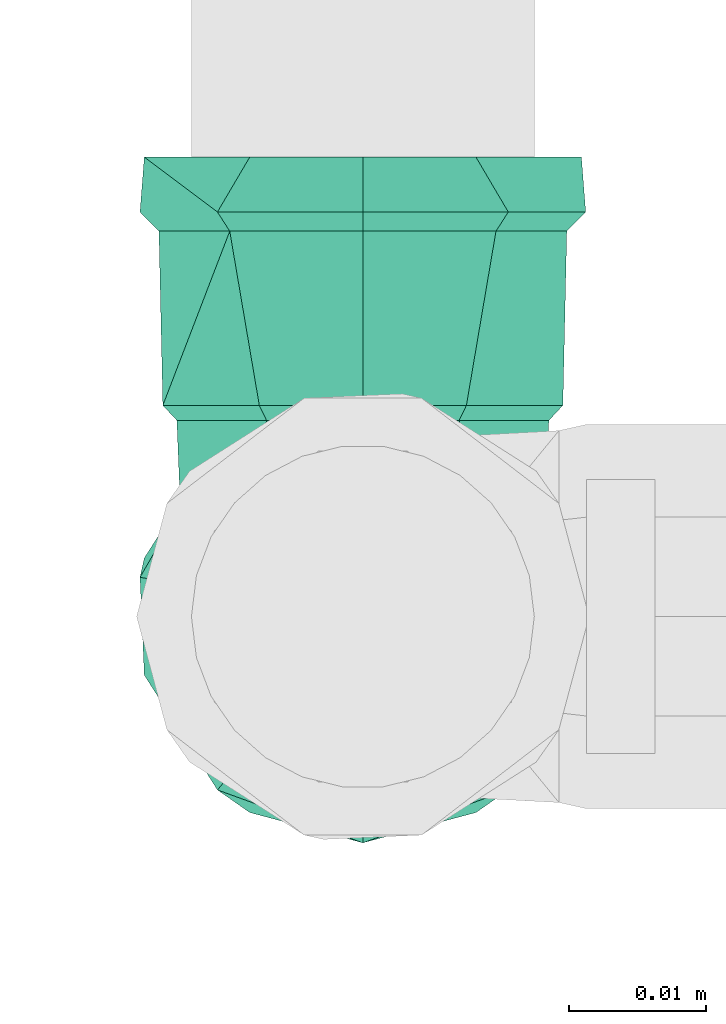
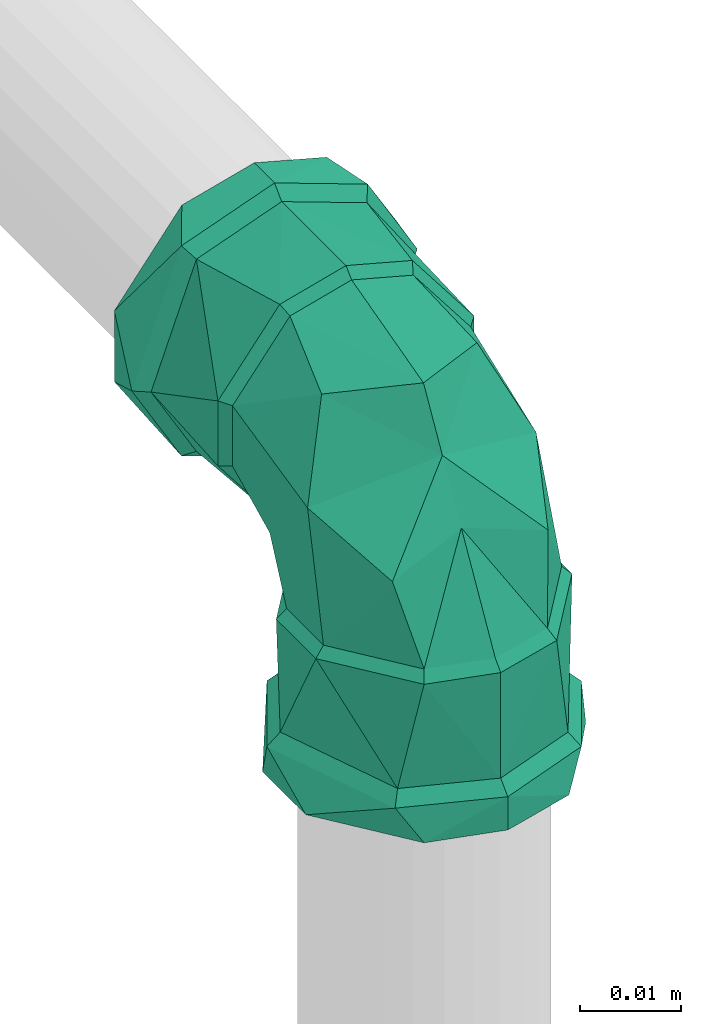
# One storey, part 353 of 589: 1 flow fitting.
"""IFC2X3 building model written with IfcOpenShell, lengths in millimetres."""

from ifc_helpers import new_model, entity, si_unit, converted_unit, derived_unit, direction, frame, origin, place, context, subcontext, project, spatial, faceted_brep, source, transform, mapped, material, type_object, type_shapes, element, save


model = new_model("IFC2X3")

# Units and contexts
model_context = context("Model", 3, precision=0.01, world=origin(), true_north=direction((6.123031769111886e-17, 1.0)))
body_context = subcontext(model_context, "Body", "Model", "MODEL_VIEW")
ifc_project = project(units=[si_unit("LENGTHUNIT", "METRE", prefix="MILLI"), si_unit("AREAUNIT", "SQUARE_METRE"), si_unit("VOLUMEUNIT", "CUBIC_METRE"), converted_unit("PLANEANGLEUNIT", "DEGREE", entity("IfcRatioMeasure", 0.017453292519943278), si_unit("PLANEANGLEUNIT", "RADIAN"), dimensions=[0, 0, 0, 0, 0, 0, 0]), si_unit("MASSUNIT", "GRAM", prefix="KILO"), derived_unit("MASSDENSITYUNIT", [(si_unit("MASSUNIT", "GRAM", prefix="KILO"), 1), (si_unit("LENGTHUNIT", "METRE"), -3)]), derived_unit("IONCONCENTRATIONUNIT", [(si_unit("MASSUNIT", "GRAM", prefix="KILO"), 1), (si_unit("LENGTHUNIT", "METRE"), -3)]), derived_unit("MOMENTOFINERTIAUNIT", [(si_unit("LENGTHUNIT", "METRE"), 4)]), si_unit("TIMEUNIT", "SECOND"), si_unit("FREQUENCYUNIT", "HERTZ"), si_unit("THERMODYNAMICTEMPERATUREUNIT", "DEGREE_CELSIUS"), derived_unit("THERMALTRANSMITTANCEUNIT", [(si_unit("MASSUNIT", "GRAM", prefix="KILO"), 1), (si_unit("THERMODYNAMICTEMPERATUREUNIT", "KELVIN"), -1), (si_unit("TIMEUNIT", "SECOND"), -3)]), derived_unit("THERMALCONDUCTANCEUNIT", [(si_unit("MASSUNIT", "GRAM", prefix="KILO"), 1), (si_unit("THERMODYNAMICTEMPERATUREUNIT", "KELVIN"), -1), (si_unit("TIMEUNIT", "SECOND"), -3), (si_unit("LENGTHUNIT", "METRE"), 1)]), derived_unit("VOLUMETRICFLOWRATEUNIT", [(si_unit("LENGTHUNIT", "METRE"), 3), (si_unit("TIMEUNIT", "SECOND"), -1)]), derived_unit("MASSFLOWRATEUNIT", [(si_unit("MASSUNIT", "GRAM", prefix="KILO"), 1), (si_unit("TIMEUNIT", "SECOND"), -1)]), derived_unit("ROTATIONALFREQUENCYUNIT", [(si_unit("TIMEUNIT", "SECOND"), -1)]), si_unit("ELECTRICCURRENTUNIT", "AMPERE"), si_unit("ELECTRICVOLTAGEUNIT", "VOLT"), si_unit("POWERUNIT", "WATT"), si_unit("FORCEUNIT", "NEWTON", prefix="KILO"), si_unit("ILLUMINANCEUNIT", "LUX"), si_unit("LUMINOUSFLUXUNIT", "LUMEN"), si_unit("LUMINOUSINTENSITYUNIT", "CANDELA"), derived_unit("USERDEFINED", [(si_unit("MASSUNIT", "GRAM", prefix="KILO"), -1), (si_unit("LENGTHUNIT", "METRE"), -2), (si_unit("TIMEUNIT", "SECOND"), 3), (si_unit("LUMINOUSFLUXUNIT", "LUMEN"), 1)]), derived_unit("USERDEFINED", [(si_unit("MASSUNIT", "GRAM", prefix="KILO"), 1), (si_unit("TIMEUNIT", "SECOND"), -3), (si_unit("LENGTHUNIT", "METRE"), 3), (si_unit("ELECTRICCURRENTUNIT", "AMPERE"), -2)]), derived_unit("SOUNDPOWERUNIT", [(si_unit("MASSUNIT", "GRAM", prefix="KILO"), 1), (si_unit("TIMEUNIT", "SECOND"), -3), (si_unit("LENGTHUNIT", "METRE"), 2)]), derived_unit("SOUNDPRESSUREUNIT", [(si_unit("MASSUNIT", "GRAM", prefix="KILO"), 1), (si_unit("LENGTHUNIT", "METRE"), -1), (si_unit("TIMEUNIT", "SECOND"), -2)]), derived_unit("LINEARVELOCITYUNIT", [(si_unit("LENGTHUNIT", "METRE"), 1), (si_unit("TIMEUNIT", "SECOND"), -1)]), si_unit("PRESSUREUNIT", "PASCAL"), derived_unit("USERDEFINED", [(si_unit("MASSUNIT", "GRAM", prefix="KILO"), 1), (si_unit("LENGTHUNIT", "METRE"), -2), (si_unit("TIMEUNIT", "SECOND"), -2)]), derived_unit("LINEARFORCEUNIT", [(si_unit("MASSUNIT", "GRAM", prefix="KILO"), 1), (si_unit("TIMEUNIT", "SECOND"), -2)]), derived_unit("PLANARFORCEUNIT", [(si_unit("MASSUNIT", "GRAM", prefix="KILO"), 1), (si_unit("LENGTHUNIT", "METRE"), -1), (si_unit("TIMEUNIT", "SECOND"), -2)]), derived_unit("SPECIFICHEATCAPACITYUNIT", [(si_unit("THERMODYNAMICTEMPERATUREUNIT", "KELVIN"), -1), (si_unit("LENGTHUNIT", "METRE"), 2), (si_unit("TIMEUNIT", "SECOND"), -2)]), derived_unit("HEATINGVALUEUNIT", [(si_unit("LENGTHUNIT", "METRE"), 2), (si_unit("TIMEUNIT", "SECOND"), -2)]), derived_unit("VAPORPERMEABILITYUNIT", [(si_unit("LENGTHUNIT", "METRE"), -1), (si_unit("TIMEUNIT", "SECOND"), 1)]), derived_unit("DYNAMICVISCOSITYUNIT", [(si_unit("MASSUNIT", "GRAM", prefix="KILO"), 1), (si_unit("TIMEUNIT", "SECOND"), -1), (si_unit("LENGTHUNIT", "METRE"), -1)]), derived_unit("THERMALEXPANSIONCOEFFICIENTUNIT", [(si_unit("THERMODYNAMICTEMPERATUREUNIT", "KELVIN"), -1)]), derived_unit("MODULUSOFELASTICITYUNIT", [(si_unit("MASSUNIT", "GRAM", prefix="KILO"), 1), (si_unit("LENGTHUNIT", "METRE"), -1), (si_unit("TIMEUNIT", "SECOND"), -2)]), derived_unit("ISOTHERMALMOISTURECAPACITYUNIT", [(si_unit("LENGTHUNIT", "METRE"), 3), (si_unit("MASSUNIT", "GRAM", prefix="KILO"), -1)]), derived_unit("MOISTUREDIFFUSIVITYUNIT", [(si_unit("TIMEUNIT", "SECOND"), -1), (si_unit("LENGTHUNIT", "METRE"), 2)])], contexts=[model_context])

# Site, building, storey
site_placement = place(None, origin())
site = spatial("IfcSite", under=ifc_project, at=site_placement, Name="Default", CompositionType="ELEMENT")
building_placement = place(site_placement, origin())
building = spatial("IfcBuilding", under=site, at=building_placement, CompositionType="ELEMENT")
storey_placement = place(building_placement, frame((0.0, 0.0, 100.0)))
storey = spatial("IfcBuildingStorey", under=building, at=storey_placement, Name="TÉRREO", CompositionType="ELEMENT", Elevation=100.0)

# Flow fitting
ifc_material = material(Name="PVC Marrom")
pipe_fitting_type = type_object("IfcPipeFittingType", Name="PVC Marrom Soldável_Joelho 45°_90°_Rodrigo MEP:Joelho", PredefinedType="NOTDEFINED", material=ifc_material)
shared_shape = source(origin(), body_context, "Body", "Brep", [
    faceted_brep([(3.908167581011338, 15.40000000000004, 14.585479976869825), (13.076983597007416, 15.40000000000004, 7.549999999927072), (15.099999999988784, 15.40000000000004, 0.0), (13.076983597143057, 15.40000000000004, -7.55000000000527), (3.9081675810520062, 15.40000000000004, -14.585479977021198), (-3.9081675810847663, 15.40000000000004, -14.585479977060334), (-13.076983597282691, 15.40000000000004, -7.550000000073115), (-15.100000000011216, 15.40000000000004, 0.0), (-13.076983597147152, 15.40000000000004, 7.549999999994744), (-3.908167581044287, 15.40000000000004, 14.585479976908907), (-3.633819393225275, 14.30000000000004, 13.561598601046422), (-12.158996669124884, 14.30000000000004, 7.0199999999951), (-14.040000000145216, 14.30000000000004, 0.0), (-12.158996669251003, 14.30000000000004, -7.020000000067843), (-3.6338193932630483, 14.30000000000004, -13.561598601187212), (3.6338193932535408, 14.30000000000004, -13.561598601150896), (12.158996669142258, 14.30000000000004, -7.020000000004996), (14.039999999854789, 14.30000000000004, 0.0), (12.158996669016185, 14.30000000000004, 7.0199999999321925), (3.6338193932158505, 14.30000000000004, 13.561598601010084)], [[[0, 1, 2, 3, 4, 5, 6, 7, 8, 9]], [[10, 11, 12, 13, 14, 15, 16, 17, 18, 19]], [[3, 17, 16]], [[4, 3, 16, 15]], [[3, 2, 17]], [[15, 14, 5, 4]], [[6, 5, 14, 13]], [[7, 13, 12]], [[7, 6, 13]], [[8, 12, 11]], [[9, 8, 11, 10]], [[8, 7, 12]], [[10, 19, 0, 9]], [[1, 0, 19, 18]], [[2, 18, 17]], [[2, 1, 18]]]),
    faceted_brep([(-15.399999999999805, 3.908167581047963, 14.585479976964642), (-15.399999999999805, 13.076983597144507, 7.549999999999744), (-15.399999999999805, 15.100000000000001, 0.0), (-15.399999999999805, 13.076983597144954, -7.54999999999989), (-15.399999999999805, 3.9081675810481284, -14.58547997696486), (-15.399999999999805, -3.9081675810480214, -14.585479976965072), (-15.399999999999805, -13.0769835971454, -7.550000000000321), (-15.399999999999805, -15.099999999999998, 0.0), (-15.399999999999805, -13.076983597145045, 7.550000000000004), (-15.399999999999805, -3.908167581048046, 14.585479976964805), (-14.299999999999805, 12.158996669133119, 7.019999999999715), (-14.299999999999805, 3.6338193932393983, 13.561598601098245), (-14.299999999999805, -3.633819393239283, 13.56159860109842), (-14.299999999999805, -12.15899666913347, 7.020000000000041), (-14.299999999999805, -14.040000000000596, 0.0), (-14.299999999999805, -12.158996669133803, -7.020000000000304), (-14.299999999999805, -3.63381939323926, -13.561598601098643), (-14.299999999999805, 3.6338193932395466, -13.56159860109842), (-14.299999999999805, 12.158996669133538, -7.019999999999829), (-14.299999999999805, 14.03999999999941, 0.0)], [[[0, 1, 2, 3, 4, 5, 6, 7, 8, 9]], [[10, 11, 12, 13, 14, 15, 16, 17, 18, 19]], [[3, 2, 19, 18]], [[4, 3, 18, 17]], [[17, 16, 5, 4]], [[6, 5, 16, 15]], [[7, 6, 15, 14]], [[8, 7, 14, 13]], [[9, 8, 13, 12]], [[12, 11, 0, 9]], [[1, 0, 11, 10]], [[2, 1, 10, 19]]]),
    faceted_brep([(-33.4999999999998, -4.2705142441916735, -15.937776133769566), (-33.4999999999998, -6.250000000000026, -10.825317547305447), (-33.4999999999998, 0.0, -12.5), (-33.4999999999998, -14.289419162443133, -8.25000000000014), (-33.4999999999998, 4.270514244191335, -15.937776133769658), (-33.4999999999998, -12.074072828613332, -3.23523806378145), (-33.4999999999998, -16.499999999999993, 0.0), (-33.4999999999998, -12.074072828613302, 3.2352380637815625), (-33.4999999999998, -14.289419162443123, 8.249999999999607), (-33.4999999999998, -6.249999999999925, 10.825317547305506), (-33.4999999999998, -4.27051424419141, 15.937776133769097), (-33.4999999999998, 0.0, 12.5), (-33.4999999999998, 4.270514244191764, 15.937776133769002), (-33.4999999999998, 6.249999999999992, 10.825317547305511), (-33.4999999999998, 14.28941916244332, 8.249999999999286), (-33.4999999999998, 12.074072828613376, 3.2352380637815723), (-33.4999999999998, 16.500000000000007, 0.0), (-33.4999999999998, 12.074072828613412, -3.235238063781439), (-33.4999999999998, 14.289419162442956, -8.250000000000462), (-33.4999999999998, 6.250000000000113, -10.82531754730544), (-29.499999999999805, 16.5, 0.0), (-29.500000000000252, 12.639142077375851, 10.606700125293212), (-29.50000000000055, 2.8633833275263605, 16.249647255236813), (-29.50000000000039, -12.64180232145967, 10.603529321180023), (-29.499999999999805, -16.499999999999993, 0.0), (-29.500000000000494, -4.889209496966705, 13.426588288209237), (-29.49999999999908, -12.641802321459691, -10.603529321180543), (-29.49999999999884, -2.8674593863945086, -16.24892847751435), (-29.499999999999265, 12.639142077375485, -10.606700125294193), (-29.499999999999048, 4.885841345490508, -13.427814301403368), (-28.099999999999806, -15.099999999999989, 0.0), (-28.10000000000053, -11.56916454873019, 9.703835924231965), (-28.100000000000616, -4.474367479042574, 12.287362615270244), (-28.1000000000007, 2.6204295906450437, 14.870889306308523), (-28.100000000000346, 11.566730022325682, 9.706737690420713), (-28.09999999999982, 15.099999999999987, 0.0), (-28.099999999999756, 11.566730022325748, -9.706737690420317), (-28.09999999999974, 4.4712851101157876, -12.28848460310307), (-28.09999999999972, -2.6241598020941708, -14.870231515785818), (-28.09999999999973, -11.569164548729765, -9.703835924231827), (-15.399999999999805, 0.0, -12.5), (-15.399999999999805, -6.250000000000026, -10.825317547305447), (-15.399999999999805, -3.908167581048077, -14.585479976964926), (-15.399999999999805, 3.9081675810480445, -14.585479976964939), (-15.399999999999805, 6.250000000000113, -10.82531754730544), (-15.399999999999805, -13.076983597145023, -7.549999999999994), (-15.399999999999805, -12.074072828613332, -3.23523806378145), (-15.399999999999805, -15.099999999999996, 0.0), (-15.399999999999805, -12.074072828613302, 3.2352380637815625), (-15.399999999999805, -13.076983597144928, 7.550000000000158), (-15.399999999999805, -6.249999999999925, 10.825317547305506), (-15.399999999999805, -3.9081675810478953, 14.585479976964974), (-15.399999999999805, 0.0, 12.5), (-15.399999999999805, 3.9081675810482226, 14.58547997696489), (-15.399999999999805, 6.249999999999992, 10.825317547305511), (-15.399999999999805, 13.076983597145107, 7.549999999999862), (-15.399999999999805, 12.074072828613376, 3.2352380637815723), (-15.399999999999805, 15.100000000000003, 0.0), (-15.399999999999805, 12.074072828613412, -3.235238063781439), (-15.399999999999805, 13.076983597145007, -7.550000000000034)], [[[0, 1, 2]], [[1, 0, 3]], [[2, 4, 0]], [[3, 5, 1]], [[3, 6, 5]], [[5, 6, 7]], [[8, 7, 6]], [[7, 8, 9]], [[10, 9, 8]], [[9, 10, 11]], [[11, 10, 12]], [[12, 13, 11]], [[14, 13, 12]], [[13, 14, 15]], [[16, 15, 14]], [[16, 17, 15]], [[18, 17, 16]], [[19, 17, 18]], [[19, 18, 4]], [[4, 2, 19]], [[16, 14, 20]], [[14, 21, 20]], [[21, 14, 12]], [[21, 12, 22]], [[23, 10, 8]], [[24, 8, 6]], [[10, 23, 25, 22]], [[23, 8, 24]], [[10, 22, 12]], [[6, 3, 24]], [[3, 26, 24]], [[26, 3, 0]], [[26, 0, 27]], [[28, 4, 18]], [[20, 18, 16]], [[4, 28, 29, 27]], [[28, 18, 20]], [[4, 27, 0]], [[30, 31, 23, 24]], [[31, 32, 33, 22, 25, 23]], [[34, 35, 20, 21]], [[34, 21, 22, 33]], [[35, 36, 28, 20]], [[36, 37, 38, 27, 29, 28]], [[39, 30, 24, 26]], [[39, 26, 27, 38]], [[40, 41, 42]], [[42, 43, 40]], [[44, 40, 43]], [[45, 42, 41]], [[41, 46, 45]], [[46, 47, 45]], [[48, 47, 46]], [[47, 48, 49]], [[50, 49, 48]], [[49, 50, 51]], [[52, 51, 50]], [[53, 51, 52]], [[52, 54, 53]], [[53, 54, 55]], [[56, 55, 54]], [[55, 56, 57]], [[56, 58, 57]], [[59, 58, 44]], [[57, 58, 59]], [[43, 59, 44]], [[35, 34, 55]], [[35, 55, 57]], [[55, 34, 53]], [[34, 33, 53]], [[51, 33, 32, 31]], [[49, 31, 30]], [[31, 49, 51]], [[49, 30, 47]], [[33, 51, 53]], [[30, 39, 45]], [[30, 45, 47]], [[45, 39, 42]], [[39, 38, 42]], [[43, 38, 37, 36]], [[59, 36, 35]], [[36, 59, 43]], [[59, 35, 57]], [[38, 43, 42]], [[9, 11, 52, 50]], [[7, 9, 50, 48]], [[48, 46, 5, 7]], [[1, 5, 46, 41]], [[2, 1, 41, 40]], [[19, 2, 40, 44]], [[17, 19, 44, 58]], [[58, 56, 15, 17]], [[13, 15, 56, 54]], [[11, 13, 54, 52]]]),
    faceted_brep([(-14.299999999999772, -3.6338193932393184, -13.561598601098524), (-14.299999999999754, -12.158996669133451, -7.020000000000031), (-14.29999999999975, -14.039999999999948, 0.0), (-14.299999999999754, -12.158996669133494, 7.019999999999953), (-14.299999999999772, -3.6338193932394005, 13.561598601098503), (-14.299999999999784, 3.633819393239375, 13.561598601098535), (-14.299999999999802, 12.158996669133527, 7.0200000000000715), (-14.299999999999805, 14.04000000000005, 0.0), (-14.299999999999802, 12.158996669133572, -7.019999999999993), (-14.299999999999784, 3.63381939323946, -13.561598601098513), (3.633819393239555, 14.29999999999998, -13.561598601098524), (-3.633819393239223, 14.300000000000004, -13.561598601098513), (-12.158996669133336, 14.300000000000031, -7.019999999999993), (-14.039999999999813, 14.300000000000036, 0.0), (-12.158996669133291, 14.300000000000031, 7.0200000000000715), (-3.6338193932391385, 14.300000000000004, 13.561598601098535), (3.6338193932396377, 14.29999999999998, 13.561598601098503), (12.158996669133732, 14.299999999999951, 7.019999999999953), (14.040000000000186, 14.299999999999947, 0.0), (12.158996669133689, 14.299999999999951, -7.020000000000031), (-0.45476175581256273, 0.4547603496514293, 13.009299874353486), (-4.991226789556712, -9.102895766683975, 8.866254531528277), (-2.689013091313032, -7.336393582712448, 0.0), (3.7770734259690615, -3.6031967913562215, 0.0), (9.09033094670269, 4.905775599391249, 8.841582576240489), (10.243159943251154, 0.13000000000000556, 0.0), (-14.116152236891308, 14.116152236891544, 0.0), (-8.296884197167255, 8.29688403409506, 12.78130953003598), (-0.454761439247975, 0.45476027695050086, -13.009299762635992), (-8.296884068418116, 8.296883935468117, -12.78130960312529), (9.090330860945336, 4.90577564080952, -8.84158269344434), (-4.991226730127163, -9.10289574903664, -8.866254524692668)], [[[0, 1, 2, 3, 4, 5, 6, 7, 8, 9]], [[10, 11, 12, 13, 14, 15, 16, 17, 18, 19]], [[4, 20, 5]], [[21, 3, 22]], [[20, 4, 21]], [[21, 22, 23]], [[17, 24, 25]], [[26, 6, 14]], [[23, 20, 21]], [[26, 7, 6]], [[6, 5, 27]], [[3, 2, 22]], [[20, 23, 24]], [[25, 18, 17]], [[20, 27, 5]], [[16, 20, 24]], [[17, 16, 24]], [[6, 27, 14]], [[26, 14, 13]], [[21, 4, 3]], [[27, 15, 14]], [[27, 20, 15]], [[23, 25, 24]], [[15, 20, 16]], [[8, 7, 26]], [[28, 29, 11]], [[28, 10, 30]], [[8, 12, 29]], [[31, 22, 1]], [[31, 23, 22]], [[28, 9, 29]], [[19, 30, 10]], [[0, 28, 31]], [[1, 22, 2]], [[8, 26, 12]], [[12, 11, 29]], [[8, 29, 9]], [[31, 1, 0]], [[10, 28, 11]], [[30, 19, 25]], [[0, 9, 28]], [[19, 18, 25]], [[25, 23, 30]], [[23, 31, 28]], [[30, 23, 28]], [[12, 26, 13]]]),
    faceted_brep([(0.0, 15.40000000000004, -12.5), (-6.249999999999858, 15.40000000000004, -10.825317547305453), (-3.908167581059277, 15.40000000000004, -14.585479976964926), (3.9081675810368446, 15.40000000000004, -14.585479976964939), (6.250000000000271, 15.40000000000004, -10.82531754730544), (-13.076983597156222, 15.40000000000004, -7.549999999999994), (-12.07407282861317, 15.40000000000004, -3.235238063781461), (-15.100000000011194, 15.40000000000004, 0.0), (-12.074072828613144, 15.40000000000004, 3.2352380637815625), (-13.076983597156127, 15.40000000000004, 7.550000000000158), (-6.249999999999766, 15.40000000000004, 10.825317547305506), (-3.9081675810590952, 15.40000000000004, 14.585479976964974), (0.0, 15.40000000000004, 12.5), (3.9081675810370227, 15.40000000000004, 14.58547997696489), (6.250000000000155, 15.40000000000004, 10.825317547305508), (13.076983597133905, 15.40000000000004, 7.549999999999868), (12.074072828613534, 15.40000000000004, 3.2352380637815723), (15.099999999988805, 15.40000000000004, 0.0), (12.07407282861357, 15.40000000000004, -3.235238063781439), (13.07698359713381, 15.40000000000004, -7.550000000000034), (15.099999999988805, 28.10000000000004, 0.0), (11.56673002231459, 28.100000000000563, 9.706737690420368), (4.471285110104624, 28.10000000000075, 12.288484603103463), (-2.624159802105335, 28.100000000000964, 14.870231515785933), (-11.569164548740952, 28.10000000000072, 9.703835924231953), (-15.100000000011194, 28.10000000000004, 0.0), (-11.569164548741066, 28.10000000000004, -9.703835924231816), (-4.474367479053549, 28.10000000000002, -12.287362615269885), (2.6204295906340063, 28.099999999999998, -14.870889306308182), (11.566730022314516, 28.10000000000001, -9.706737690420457), (-12.639142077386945, 29.50000000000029, 10.606700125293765), (-16.50000000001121, 29.500000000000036, 0.0), (-2.8633833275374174, 29.50000000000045, 16.249647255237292), (12.641802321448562, 29.500000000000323, 10.603529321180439), (4.889209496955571, 29.500000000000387, 13.426588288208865), (16.499999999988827, 29.50000000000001, 0.0), (12.64180232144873, 29.500000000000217, -10.603529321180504), (2.867459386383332, 29.500000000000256, -16.24892847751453), (-12.639142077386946, 29.500000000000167, -10.606700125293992), (-4.885841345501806, 29.500000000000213, -13.427814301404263), (-4.270514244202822, 33.50000000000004, -15.937776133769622), (-6.249999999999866, 33.50000000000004, -10.825317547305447), (0.0, 33.50000000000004, -12.5), (-14.289419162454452, 33.50000000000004, -8.249999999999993), (4.270514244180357, 33.50000000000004, -15.937776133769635), (-12.074072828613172, 33.50000000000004, -3.23523806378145), (-16.50000000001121, 33.50000000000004, 0.0), (-12.074072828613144, 33.50000000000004, 3.2352380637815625), (-14.28941916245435, 33.50000000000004, 8.250000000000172), (-6.2499999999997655, 33.50000000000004, 10.825317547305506), (-4.270514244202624, 33.50000000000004, 15.937776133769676), (0.0, 33.50000000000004, 12.5), (4.270514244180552, 33.50000000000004, 15.937776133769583), (6.250000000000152, 33.50000000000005, 10.825317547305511), (14.289419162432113, 33.50000000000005, 8.249999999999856), (12.074072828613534, 33.50000000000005, 3.2352380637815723), (16.49999999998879, 33.50000000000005, 0.0), (12.07407282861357, 33.50000000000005, -3.235238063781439), (14.289419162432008, 33.50000000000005, -8.250000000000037), (6.250000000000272, 33.50000000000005, -10.82531754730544)], [[[0, 1, 2]], [[2, 3, 0]], [[4, 0, 3]], [[5, 2, 1]], [[1, 6, 5]], [[6, 7, 5]], [[8, 7, 6]], [[7, 8, 9]], [[10, 9, 8]], [[9, 10, 11]], [[12, 11, 10]], [[13, 11, 12]], [[12, 14, 13]], [[13, 14, 15]], [[16, 15, 14]], [[15, 16, 17]], [[16, 18, 17]], [[19, 18, 4]], [[17, 18, 19]], [[3, 19, 4]], [[20, 21, 15]], [[20, 15, 17]], [[15, 21, 13]], [[13, 21, 22, 23]], [[11, 23, 24]], [[9, 24, 25]], [[24, 9, 11]], [[9, 25, 7]], [[23, 11, 13]], [[25, 26, 5]], [[25, 5, 7]], [[5, 26, 2]], [[2, 26, 27, 28]], [[3, 28, 29]], [[19, 29, 20]], [[29, 19, 3]], [[19, 20, 17]], [[28, 3, 2]], [[24, 23, 30]], [[25, 24, 31]], [[31, 24, 30]], [[23, 32, 30]], [[21, 20, 33]], [[21, 33, 34]], [[22, 32, 23]], [[35, 33, 20]], [[32, 22, 34]], [[22, 21, 34]], [[20, 29, 36]], [[36, 35, 20]], [[37, 36, 29]], [[38, 39, 27]], [[29, 28, 37]], [[26, 25, 31]], [[38, 27, 26]], [[38, 26, 31]], [[28, 39, 37]], [[39, 28, 27]], [[40, 41, 42]], [[41, 40, 43]], [[42, 44, 40]], [[43, 45, 41]], [[43, 46, 45]], [[45, 46, 47]], [[48, 47, 46]], [[47, 48, 49]], [[50, 49, 48]], [[49, 50, 51]], [[51, 50, 52]], [[52, 53, 51]], [[54, 53, 52]], [[53, 54, 55]], [[56, 55, 54]], [[56, 57, 55]], [[58, 57, 56]], [[59, 57, 58]], [[59, 58, 44]], [[44, 42, 59]], [[56, 54, 35]], [[54, 33, 35]], [[33, 54, 52]], [[52, 32, 34, 33]], [[30, 50, 48]], [[31, 48, 46]], [[50, 30, 32]], [[30, 48, 31]], [[50, 32, 52]], [[46, 43, 31]], [[43, 38, 31]], [[38, 43, 40]], [[40, 37, 39, 38]], [[36, 44, 58]], [[35, 58, 56]], [[44, 36, 37]], [[36, 58, 35]], [[44, 37, 40]], [[49, 51, 12, 10]], [[47, 49, 10, 8]], [[8, 6, 45, 47]], [[41, 45, 6, 1]], [[42, 41, 1, 0]], [[59, 42, 0, 4]], [[57, 59, 4, 18]], [[18, 16, 55, 57]], [[53, 55, 16, 14]], [[51, 53, 14, 12]]]),
])
type_shapes(pipe_fitting_type, [shared_shape])
flow_fitting_placement = place(storey_placement, frame((-7562.714972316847, -1896.6798231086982, 1200.0), z_axis=(-1.0, 0.0, 0.0), x_axis=(0.0, 0.0, 1.0)))
element("IfcFlowFitting", 1, at=flow_fitting_placement, inside=storey, type_object=pipe_fitting_type, material=ifc_material, Name="PVC Marrom Soldável_Joelho 45°_90°_Rodrigo MEP:Joelho", ObjectType="PVC Marrom Soldável_Joelho 45°_90°_Rodrigo MEP:Joelho", context=body_context, shape_type="MappedRepresentation", body=[
    mapped(shared_shape, transform((0.0, 0.0, 0.0), scale=1.0)),
])

save(model, "model.ifc")
